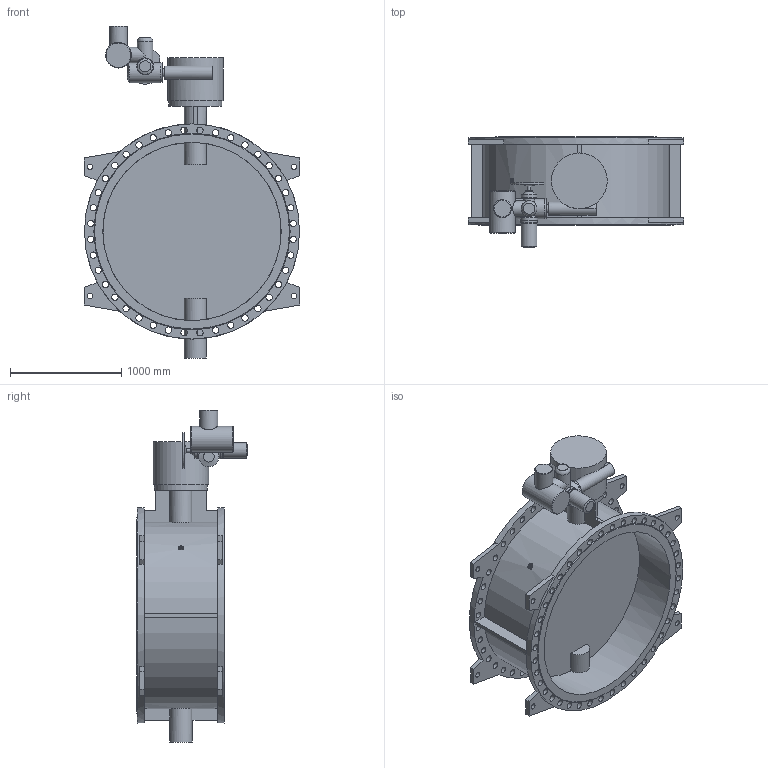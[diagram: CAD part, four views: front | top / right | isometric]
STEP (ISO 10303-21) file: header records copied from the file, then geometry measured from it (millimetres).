
FILE_DESCRIPTION(('STEP AP203'), '1');
FILE_NAME('Çàòâîð 023F.Z DN1600 PN16 + ðåäóêòîð + ÌÒ903.À30 ñ ÁÓ', '', ('UNSPECIFIED'), ('UNSPECIFIED'), 'ASCON STEP Converter 1.6', 'ASCON Math Kernel', '');
FILE_SCHEMA(('CONFIG_CONTROL_DESIGN'));
Length unit declared in the file: millimetre
Bounding box: 1930 x 989 x 2978 mm (x, y, z)
Volume: 602318809.3 mm3; surface area: 19373903.9 mm2
Topology: 1 solids, 1 shells, 290 faces, 726 edges, 476 vertices
Faces by surface type: cylinder 156, plane 120, cone 13, torus 1
Full cylindrical faces by diameter (mm): 14 x4, 18 x4, 32 x1, 33 x8, 39 x8, 50 x8, 57 x80, 60 x1, 70 x1, 100 x1, 120 x1, 140 x4, 147 x1, 151 x1, 160 x1, 175 x1, 180 x1, 200 x1, 230 x1, 475 x1, 500 x1, 1600 x2, 1930 x2
Entity records: 12742 total; most frequent: CARTESIAN_POINT 3463, DIRECTION 1451, ORIENTED_EDGE 1152, EDGE_LOOP 651, AXIS2_PLACEMENT_3D 626, EDGE_CURVE 576, VERTEX_POINT 475, FACE_BOUND 372
